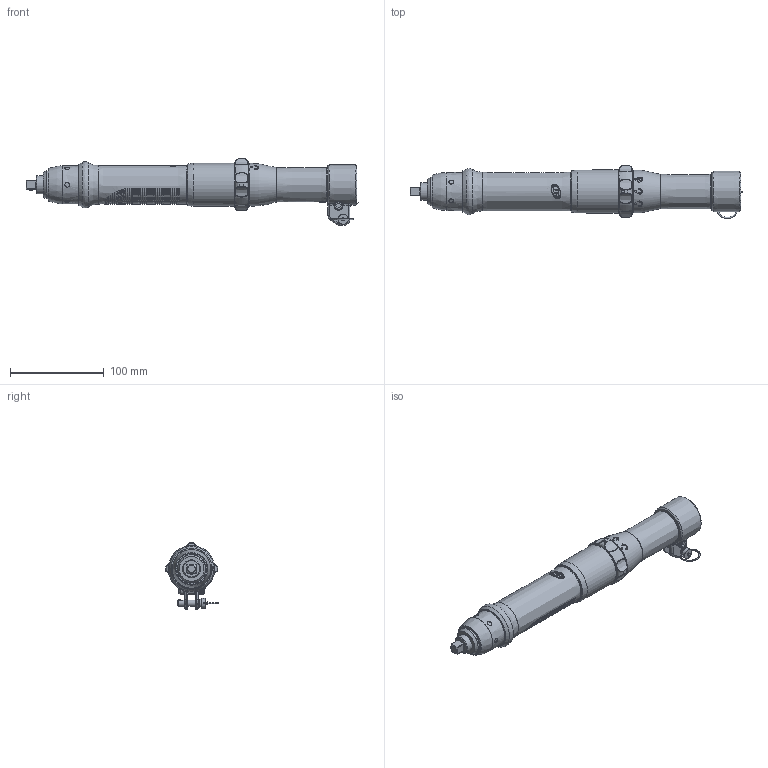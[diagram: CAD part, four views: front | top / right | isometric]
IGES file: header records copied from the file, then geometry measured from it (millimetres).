
Global section: file name: 80137474_PTS_C_SH1.igs; native system: Unigraphics Version 18.0; preprocessor: UG/IGES Version 18.0; date: 040427.180409; units: inch
Bounding box: 354.76 x 56.61 x 70.99 mm (x, y, z)
Surface area: 53853.4 mm2 (no closed solid volume)
Topology: 0 solids, 0 shells, 1031 faces, 7329 edges, 7257 vertices
Faces by surface type: revolution 562, extrusion 432, bspline 37
